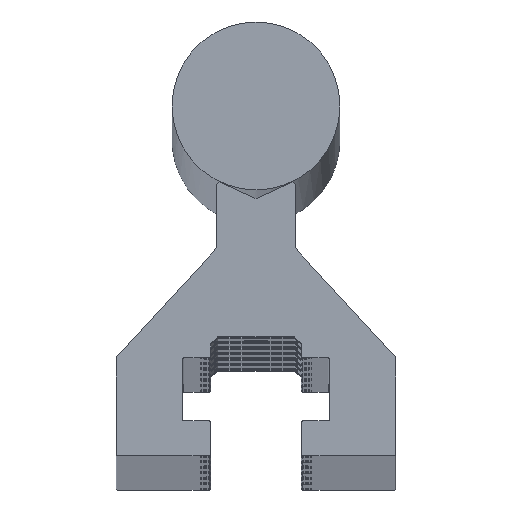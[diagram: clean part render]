
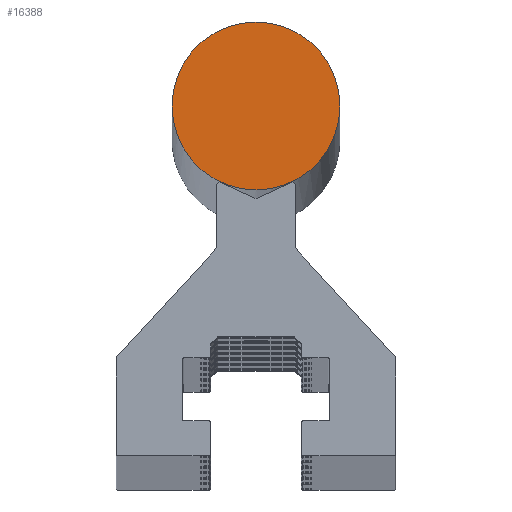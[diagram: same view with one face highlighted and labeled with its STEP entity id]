
A CAD part, top view. The second image highlights one B-rep face of the part: STEP entity #16388.
In plain terms, the highlighted planar face has unit normal (0, 0, 1).
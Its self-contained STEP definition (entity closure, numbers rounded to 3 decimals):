
#2970 = CARTESIAN_POINT ( 'NONE',  ( 6., 25., 1. ) ) ;
#5325 = CARTESIAN_POINT ( 'NONE',  ( 0., 25., 1. ) ) ;
#7458 = VERTEX_POINT ( 'NONE', #2970 ) ;
#11846 = ORIENTED_EDGE ( 'NONE', *, *, #24711, .T. ) ;
#12635 = DIRECTION ( 'NONE',  ( 1., 0., 0. ) ) ;
#12741 = DIRECTION ( 'NONE',  ( 0., 0., 1. ) ) ;
#12745 = CARTESIAN_POINT ( 'NONE',  ( 0., 25., 1. ) ) ;
#14276 = AXIS2_PLACEMENT_3D ( 'NONE', #5325, #15484, #15440 ) ;
#15114 = FACE_OUTER_BOUND ( 'NONE', #28265, .T. ) ;
#15440 = DIRECTION ( 'NONE',  ( 1., 0., 0. ) ) ;
#15484 = DIRECTION ( 'NONE',  ( 0., 0., 1. ) ) ;
#15521 = PLANE ( 'NONE',  #14276 ) ;
#16388 = ADVANCED_FACE ( 'NONE', ( #15114 ), #15521, .T. ) ;
#19352 = CIRCLE ( 'NONE', #28117, 6. ) ;
#24711 = EDGE_CURVE ( 'NONE', #7458, #7458, #19352, .T. ) ;
#28117 = AXIS2_PLACEMENT_3D ( 'NONE', #12745, #12741, #12635 ) ;
#28265 = EDGE_LOOP ( 'NONE', ( #11846 ) ) ;
